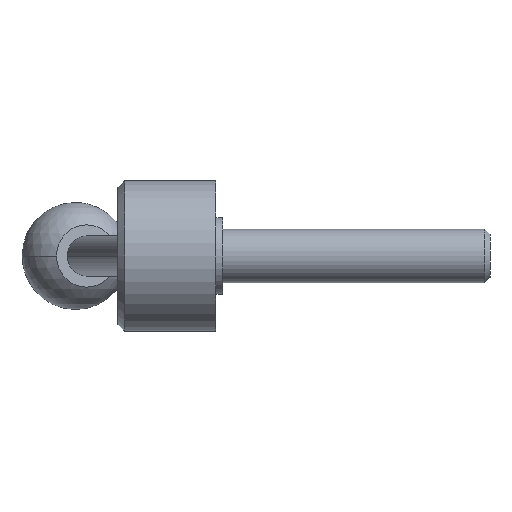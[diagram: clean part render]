
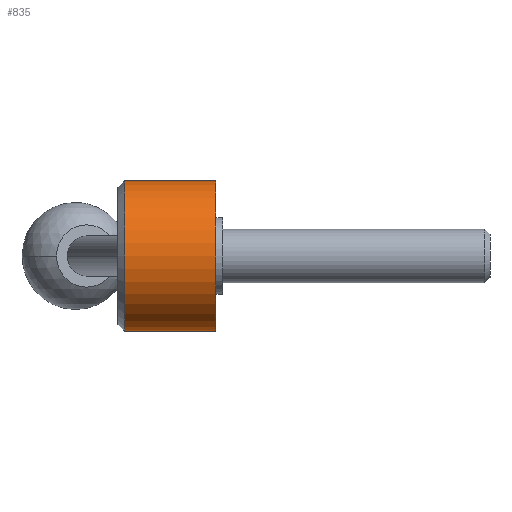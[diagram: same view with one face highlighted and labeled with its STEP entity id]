
A CAD part, left-side view. The second image highlights one B-rep face of the part: STEP entity #835.
In plain terms, the highlighted cylindrical face has radius 22.5 mm (diameter 45 mm), a partial arc.
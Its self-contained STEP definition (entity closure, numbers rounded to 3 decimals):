
#12 = CARTESIAN_POINT ( 'NONE',  ( 0., 0., 22.5 ) ) ;
#17 = DIRECTION ( 'NONE',  ( 0., -1., 0. ) ) ;
#20 = ORIENTED_EDGE ( 'NONE', *, *, #543, .F. ) ;
#40 = AXIS2_PLACEMENT_3D ( 'NONE', #847, #17, #234 ) ;
#41 = EDGE_LOOP ( 'NONE', ( #20, #438, #97, #85 ) ) ;
#59 = VECTOR ( 'NONE', #762, 1000. ) ;
#85 = ORIENTED_EDGE ( 'NONE', *, *, #559, .F. ) ;
#92 = DIRECTION ( 'NONE',  ( 0., -1., 0. ) ) ;
#97 = ORIENTED_EDGE ( 'NONE', *, *, #446, .T. ) ;
#137 = CARTESIAN_POINT ( 'NONE',  ( 0., 0., -22.5 ) ) ;
#169 = DIRECTION ( 'NONE',  ( 0., -1., 0. ) ) ;
#220 = LINE ( 'NONE', #422, #59 ) ;
#234 = DIRECTION ( 'NONE',  ( 0., 0., -1. ) ) ;
#251 = DIRECTION ( 'NONE',  ( 0., 0., -1. ) ) ;
#267 = VERTEX_POINT ( 'NONE', #388 ) ;
#296 = VERTEX_POINT ( 'NONE', #617 ) ;
#306 = VECTOR ( 'NONE', #92, 1000. ) ;
#328 = VERTEX_POINT ( 'NONE', #137 ) ;
#372 = CYLINDRICAL_SURFACE ( 'NONE', #684, 22.5 ) ;
#388 = CARTESIAN_POINT ( 'NONE',  ( 0., 27.3, 22.5 ) ) ;
#421 = CIRCLE ( 'NONE', #40, 22.5 ) ;
#422 = CARTESIAN_POINT ( 'NONE',  ( 0., 0., -22.5 ) ) ;
#438 = ORIENTED_EDGE ( 'NONE', *, *, #677, .T. ) ;
#445 = CARTESIAN_POINT ( 'NONE',  ( 0., 27.3, 0. ) ) ;
#446 = EDGE_CURVE ( 'NONE', #296, #328, #220, .T. ) ;
#459 = CARTESIAN_POINT ( 'NONE',  ( 0., 0., 0. ) ) ;
#486 = CARTESIAN_POINT ( 'NONE',  ( 0., 0., 22.5 ) ) ;
#543 = EDGE_CURVE ( 'NONE', #267, #619, #765, .T. ) ;
#553 = CIRCLE ( 'NONE', #784, 22.5 ) ;
#559 = EDGE_CURVE ( 'NONE', #619, #328, #421, .T. ) ;
#617 = CARTESIAN_POINT ( 'NONE',  ( 0., 27.3, -22.5 ) ) ;
#619 = VERTEX_POINT ( 'NONE', #12 ) ;
#661 = FACE_OUTER_BOUND ( 'NONE', #41, .T. ) ;
#677 = EDGE_CURVE ( 'NONE', #267, #296, #553, .T. ) ;
#684 = AXIS2_PLACEMENT_3D ( 'NONE', #459, #169, #251 ) ;
#717 = DIRECTION ( 'NONE',  ( 0., 0., 1. ) ) ;
#724 = DIRECTION ( 'NONE',  ( 0., -1., 0. ) ) ;
#762 = DIRECTION ( 'NONE',  ( 0., -1., 0. ) ) ;
#765 = LINE ( 'NONE', #486, #306 ) ;
#784 = AXIS2_PLACEMENT_3D ( 'NONE', #445, #724, #717 ) ;
#835 = ADVANCED_FACE ( 'NONE', ( #661 ), #372, .T. ) ;
#847 = CARTESIAN_POINT ( 'NONE',  ( 0., 0., 0. ) ) ;
